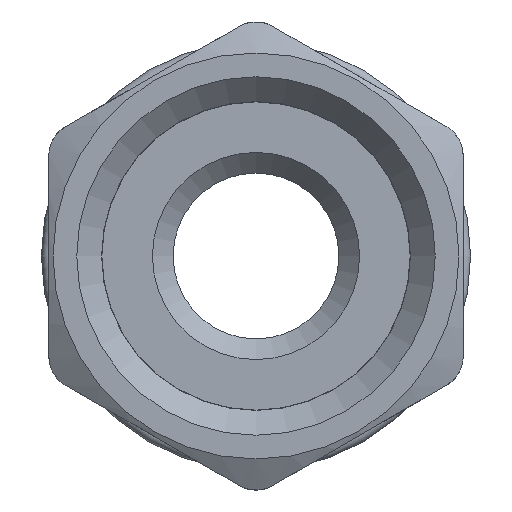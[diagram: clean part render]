
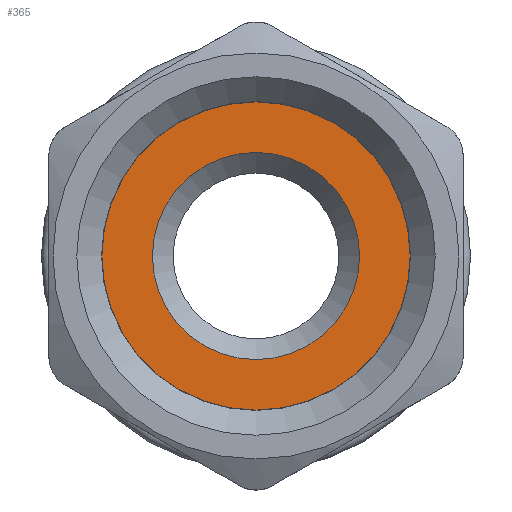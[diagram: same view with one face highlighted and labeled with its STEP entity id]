
A CAD part, front view. The second image highlights one B-rep face of the part: STEP entity #365.
In plain terms, the highlighted planar face has unit normal (0, -1, 0).
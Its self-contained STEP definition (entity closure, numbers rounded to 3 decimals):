
#365=ADVANCED_FACE('',(#1105,#1107),#1109,.F.);
#1105=FACE_BOUND('',#1106,.T.);
#1106=EDGE_LOOP('',(#1398));
#1107=FACE_BOUND('',#1108,.T.);
#1108=EDGE_LOOP('',(#1399));
#1109=PLANE('',#1110);
#1110=AXIS2_PLACEMENT_3D('',#1111,#1112,#1113);
#1111=CARTESIAN_POINT('',(0.,0.,0.));
#1112=DIRECTION('',(0.,1.,0.));
#1113=DIRECTION('',(-1.,0.,0.));
#1398=ORIENTED_EDGE('',*,*,#1527,.F.);
#1399=ORIENTED_EDGE('',*,*,#1528,.T.);
#1527=EDGE_CURVE('',#1751,#1751,#1752,.T.);
#1528=EDGE_CURVE('',#1753,#1753,#1754,.T.);
#1751=VERTEX_POINT('',#3146);
#1752=CIRCLE('',#3147,9.3);
#1753=VERTEX_POINT('',#3151);
#1754=CIRCLE('',#3152,6.25);
#3146=CARTESIAN_POINT('',(-9.3,0.,0.));
#3147=AXIS2_PLACEMENT_3D('',#3148,#3149,#3150);
#3148=CARTESIAN_POINT('',(0.,0.,0.));
#3149=DIRECTION('',(0.,1.,0.));
#3150=DIRECTION('',(-1.,0.,0.));
#3151=CARTESIAN_POINT('',(-6.25,0.,0.));
#3152=AXIS2_PLACEMENT_3D('',#3153,#3154,#3155);
#3153=CARTESIAN_POINT('',(0.,0.,0.));
#3154=DIRECTION('',(0.,1.,0.));
#3155=DIRECTION('',(-1.,0.,0.));
